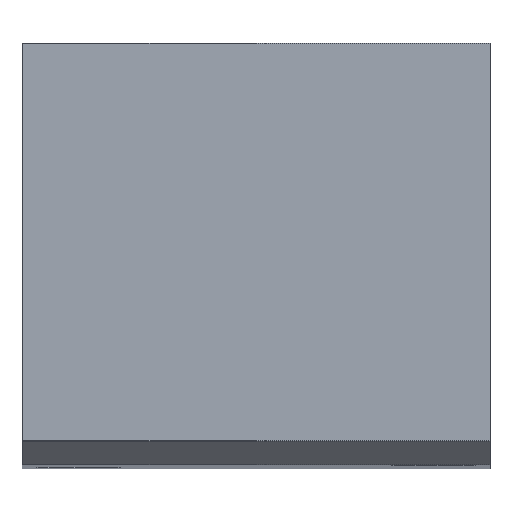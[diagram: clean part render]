
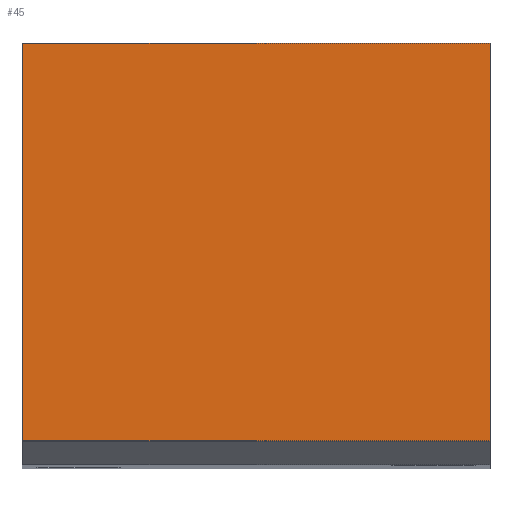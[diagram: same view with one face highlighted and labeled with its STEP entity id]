
A CAD part, top view. The second image highlights one B-rep face of the part: STEP entity #45.
In plain terms, the highlighted planar face has unit normal (0, 0, 1).
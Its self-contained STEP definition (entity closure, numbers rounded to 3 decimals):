
#45=ADVANCED_FACE('',(#113),#112,.T.);
#112=PLANE('',#265);
#113=FACE_OUTER_BOUND('',#266,.T.);
#262=CARTESIAN_POINT('',(-9.8,-9.35,14.4));
#263=DIRECTION('',(0.,0.,1.));
#264=DIRECTION('',(1.,0.,0.));
#265=AXIS2_PLACEMENT_3D('',#262,#263,#264);
#266=EDGE_LOOP('',(#362,#363,#364,#365));
#362=ORIENTED_EDGE('',*,*,#444,.T.);
#363=ORIENTED_EDGE('',*,*,#425,.F.);
#364=ORIENTED_EDGE('',*,*,#418,.F.);
#365=ORIENTED_EDGE('',*,*,#442,.F.);
#418=EDGE_CURVE('',#503,#510,#511,.T.);
#425=EDGE_CURVE('',#510,#558,#559,.T.);
#442=EDGE_CURVE('',#667,#503,#674,.T.);
#444=EDGE_CURVE('',#667,#558,#686,.T.);
#503=VERTEX_POINT('',#779);
#510=VERTEX_POINT('',#783);
#511=LINE('',#784,#785);
#558=VERTEX_POINT('',#815);
#559=LINE('',#816,#817);
#667=VERTEX_POINT('',#884);
#674=LINE('',#888,#889);
#686=LINE('',#894,#895);
#779=CARTESIAN_POINT('',(-8.8,0.,14.4));
#783=CARTESIAN_POINT('',(1.2,0.,14.4));
#784=CARTESIAN_POINT('',(-8.8,0.,14.4));
#785=VECTOR('',#786,10.);
#786=DIRECTION('',(1.,0.,0.));
#815=CARTESIAN_POINT('',(1.2,-8.5,14.4));
#816=CARTESIAN_POINT('',(1.2,0.,14.4));
#817=VECTOR('',#818,8.5);
#818=DIRECTION('',(0.,-1.,0.));
#884=CARTESIAN_POINT('',(-8.8,-8.5,14.4));
#888=CARTESIAN_POINT('',(-8.8,-8.5,14.4));
#889=VECTOR('',#890,8.5);
#890=DIRECTION('',(0.,1.,0.));
#894=CARTESIAN_POINT('',(-8.8,-8.5,14.4));
#895=VECTOR('',#896,10.);
#896=DIRECTION('',(1.,0.,0.));
